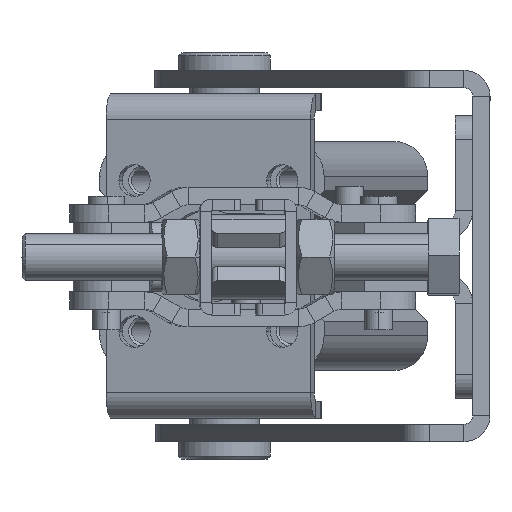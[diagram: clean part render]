
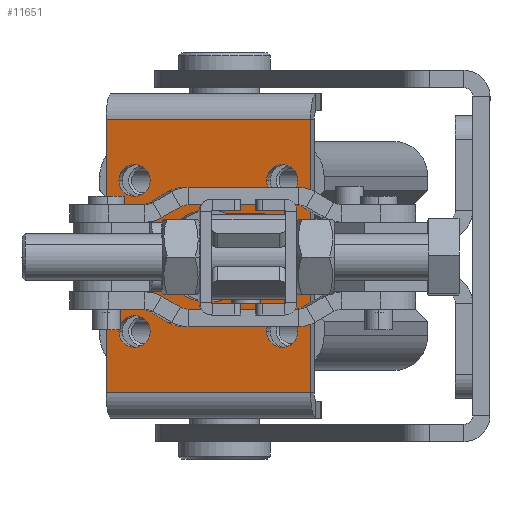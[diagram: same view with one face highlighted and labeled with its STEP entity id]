
A CAD part, left-side view. The second image highlights one B-rep face of the part: STEP entity #11651.
In plain terms, the highlighted planar face has unit normal (-0.98, 0.201, 0) as drawn and (0, -1, 0) by its records, which use the part's own axes.
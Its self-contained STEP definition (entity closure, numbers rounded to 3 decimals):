
#80 = AXIS2_PLACEMENT_3D ( 'NONE', #17554, #7647, #19215 ) ;
#235 = AXIS2_PLACEMENT_3D ( 'NONE', #11893, #1983, #13534 ) ;
#767 = FACE_BOUND ( 'NONE', #18223, .T. ) ;
#1020 = DIRECTION ( 'NONE',  ( 0., 1., 0. ) ) ;
#1090 = ORIENTED_EDGE ( 'NONE', *, *, #7598, .F. ) ;
#1193 = DIRECTION ( 'NONE',  ( 0., 1., 0. ) ) ;
#1299 = FACE_BOUND ( 'NONE', #11923, .T. ) ;
#1346 = VERTEX_POINT ( 'NONE', #3056 ) ;
#1425 = DIRECTION ( 'NONE',  ( 0., 0., 1. ) ) ;
#1983 = DIRECTION ( 'NONE',  ( 0., 1., 0. ) ) ;
#1997 = DIRECTION ( 'NONE',  ( 0., 1., 0. ) ) ;
#2716 = CIRCLE ( 'NONE', #235, 2.75 ) ;
#2783 = AXIS2_PLACEMENT_3D ( 'NONE', #9036, #20605, #10690 ) ;
#3056 = CARTESIAN_POINT ( 'NONE',  ( -23.5, -3., -18. ) ) ;
#3066 = EDGE_LOOP ( 'NONE', ( #6644, #6057 ) ) ;
#3332 = AXIS2_PLACEMENT_3D ( 'NONE', #11091, #1193, #12761 ) ;
#3406 = CARTESIAN_POINT ( 'NONE',  ( 13., -3., -15.75 ) ) ;
#3475 = ORIENTED_EDGE ( 'NONE', *, *, #6961, .T. ) ;
#3598 = DIRECTION ( 'NONE',  ( 0., 1., 0. ) ) ;
#3706 = CARTESIAN_POINT ( 'NONE',  ( 32.168, -3., -18. ) ) ;
#3814 = ORIENTED_EDGE ( 'NONE', *, *, #19813, .T. ) ;
#4022 = AXIS2_PLACEMENT_3D ( 'NONE', #7030, #18619, #8715 ) ;
#4083 = EDGE_LOOP ( 'NONE', ( #12535, #6304 ) ) ;
#4286 = CARTESIAN_POINT ( 'NONE',  ( -13., -3., 10.25 ) ) ;
#4319 = CIRCLE ( 'NONE', #6338, 2.75 ) ;
#4563 = CARTESIAN_POINT ( 'NONE',  ( 23.5, -3., -3.767 ) ) ;
#4839 = DIRECTION ( 'NONE',  ( 0., 1., 0. ) ) ;
#5155 = CARTESIAN_POINT ( 'NONE',  ( 13., -3., 15.75 ) ) ;
#5178 = FACE_BOUND ( 'NONE', #18074, .T. ) ;
#5217 = CARTESIAN_POINT ( 'NONE',  ( 23.5, -3., -18. ) ) ;
#5370 = DIRECTION ( 'NONE',  ( -1., 0., 0. ) ) ;
#5452 = VERTEX_POINT ( 'NONE', #5155 ) ;
#5813 = LINE ( 'NONE', #4563, #13563 ) ;
#6057 = ORIENTED_EDGE ( 'NONE', *, *, #13436, .T. ) ;
#6107 = VERTEX_POINT ( 'NONE', #20229 ) ;
#6304 = ORIENTED_EDGE ( 'NONE', *, *, #17381, .T. ) ;
#6338 = AXIS2_PLACEMENT_3D ( 'NONE', #13489, #3598, #15154 ) ;
#6374 = AXIS2_PLACEMENT_3D ( 'NONE', #14721, #4839, #16395 ) ;
#6644 = ORIENTED_EDGE ( 'NONE', *, *, #8799, .T. ) ;
#6789 = CARTESIAN_POINT ( 'NONE',  ( -13., -3., -15.75 ) ) ;
#6840 = EDGE_LOOP ( 'NONE', ( #15791, #19679, #11571, #1090 ) ) ;
#6961 = EDGE_CURVE ( 'NONE', #6107, #13749, #13867, .T. ) ;
#7030 = CARTESIAN_POINT ( 'NONE',  ( -13., -3., -13. ) ) ;
#7380 = CARTESIAN_POINT ( 'NONE',  ( 39.5, -3., -3.767 ) ) ;
#7508 = VERTEX_POINT ( 'NONE', #5217 ) ;
#7553 = VECTOR ( 'NONE', #13493, 1000. ) ;
#7598 = EDGE_CURVE ( 'NONE', #7508, #1346, #16967, .T. ) ;
#7647 = DIRECTION ( 'NONE',  ( 0., 1., 0. ) ) ;
#8150 = VERTEX_POINT ( 'NONE', #6789 ) ;
#8326 = VERTEX_POINT ( 'NONE', #8954 ) ;
#8580 = CARTESIAN_POINT ( 'NONE',  ( 23.5, -3., 18. ) ) ;
#8622 = VERTEX_POINT ( 'NONE', #9593 ) ;
#8623 = EDGE_CURVE ( 'NONE', #12063, #5452, #12029, .T. ) ;
#8715 = DIRECTION ( 'NONE',  ( 0., 0., 1. ) ) ;
#8799 = EDGE_CURVE ( 'NONE', #18263, #8326, #18611, .T. ) ;
#8954 = CARTESIAN_POINT ( 'NONE',  ( 0., -3., -8. ) ) ;
#9036 = CARTESIAN_POINT ( 'NONE',  ( 0., -3., 0. ) ) ;
#9047 = DIRECTION ( 'NONE',  ( 0., 1., 0. ) ) ;
#9468 = AXIS2_PLACEMENT_3D ( 'NONE', #10926, #1020, #12606 ) ;
#9593 = CARTESIAN_POINT ( 'NONE',  ( -13., -3., 15.75 ) ) ;
#9861 = CARTESIAN_POINT ( 'NONE',  ( 0., -3., 8. ) ) ;
#9972 = CARTESIAN_POINT ( 'NONE',  ( 13., -3., 10.25 ) ) ;
#10170 = CARTESIAN_POINT ( 'NONE',  ( -32.168, -3., 18. ) ) ;
#10208 = EDGE_CURVE ( 'NONE', #11252, #17768, #12478, .T. ) ;
#10611 = VECTOR ( 'NONE', #19727, 1000. ) ;
#10690 = DIRECTION ( 'NONE',  ( 0., 0., 1. ) ) ;
#10926 = CARTESIAN_POINT ( 'NONE',  ( 0., -3., 0. ) ) ;
#10993 = CARTESIAN_POINT ( 'NONE',  ( -23.5, -3., 18. ) ) ;
#11091 = CARTESIAN_POINT ( 'NONE',  ( 13., -3., 13. ) ) ;
#11252 = VERTEX_POINT ( 'NONE', #10993 ) ;
#11336 = DIRECTION ( 'NONE',  ( 0., 1., 0. ) ) ;
#11571 = ORIENTED_EDGE ( 'NONE', *, *, #14375, .T. ) ;
#11651 = ADVANCED_FACE ( 'NONE', ( #18387, #1299, #5178, #767, #17848, #13452 ), #17279, .F. ) ;
#11893 = CARTESIAN_POINT ( 'NONE',  ( -13., -3., 13. ) ) ;
#11899 = CARTESIAN_POINT ( 'NONE',  ( 13., -3., -13. ) ) ;
#11923 = EDGE_LOOP ( 'NONE', ( #12228, #21366 ) ) ;
#12029 = CIRCLE ( 'NONE', #20619, 2.75 ) ;
#12063 = VERTEX_POINT ( 'NONE', #9972 ) ;
#12228 = ORIENTED_EDGE ( 'NONE', *, *, #20331, .T. ) ;
#12478 = LINE ( 'NONE', #10170, #7553 ) ;
#12487 = CIRCLE ( 'NONE', #3332, 2.75 ) ;
#12535 = ORIENTED_EDGE ( 'NONE', *, *, #18834, .T. ) ;
#12585 = VECTOR ( 'NONE', #5370, 1000. ) ;
#12606 = DIRECTION ( 'NONE',  ( 0., 0., 1. ) ) ;
#12761 = DIRECTION ( 'NONE',  ( 0., 0., 1. ) ) ;
#13436 = EDGE_CURVE ( 'NONE', #8326, #18263, #14160, .T. ) ;
#13452 = FACE_BOUND ( 'NONE', #3066, .T. ) ;
#13489 = CARTESIAN_POINT ( 'NONE',  ( 13., -3., -13. ) ) ;
#13493 = DIRECTION ( 'NONE',  ( 1., 0., 0. ) ) ;
#13534 = DIRECTION ( 'NONE',  ( 0., 0., 1. ) ) ;
#13547 = DIRECTION ( 'NONE',  ( 0., 0., 1. ) ) ;
#13563 = VECTOR ( 'NONE', #21141, 1000. ) ;
#13606 = CARTESIAN_POINT ( 'NONE',  ( -13., -3., -10.25 ) ) ;
#13749 = VERTEX_POINT ( 'NONE', #3406 ) ;
#13867 = CIRCLE ( 'NONE', #13955, 2.75 ) ;
#13955 = AXIS2_PLACEMENT_3D ( 'NONE', #11899, #1997, #13547 ) ;
#14160 = CIRCLE ( 'NONE', #9468, 8. ) ;
#14375 = EDGE_CURVE ( 'NONE', #11252, #1346, #15521, .T. ) ;
#14646 = ORIENTED_EDGE ( 'NONE', *, *, #20692, .T. ) ;
#14721 = CARTESIAN_POINT ( 'NONE',  ( -13., -3., -13. ) ) ;
#15154 = DIRECTION ( 'NONE',  ( 0., 0., 1. ) ) ;
#15405 = VERTEX_POINT ( 'NONE', #4286 ) ;
#15521 = LINE ( 'NONE', #18071, #10611 ) ;
#15677 = AXIS2_PLACEMENT_3D ( 'NONE', #7380, #9047, #20612 ) ;
#15680 = VERTEX_POINT ( 'NONE', #13606 ) ;
#15791 = ORIENTED_EDGE ( 'NONE', *, *, #19230, .F. ) ;
#16395 = DIRECTION ( 'NONE',  ( 0., 0., 1. ) ) ;
#16967 = LINE ( 'NONE', #3706, #12585 ) ;
#17279 = PLANE ( 'NONE',  #15677 ) ;
#17381 = EDGE_CURVE ( 'NONE', #15405, #8622, #18316, .T. ) ;
#17554 = CARTESIAN_POINT ( 'NONE',  ( -13., -3., 13. ) ) ;
#17748 = EDGE_CURVE ( 'NONE', #13749, #6107, #4319, .T. ) ;
#17768 = VERTEX_POINT ( 'NONE', #8580 ) ;
#17848 = FACE_OUTER_BOUND ( 'NONE', #6840, .T. ) ;
#18071 = CARTESIAN_POINT ( 'NONE',  ( -23.5, -3., -3.767 ) ) ;
#18074 = EDGE_LOOP ( 'NONE', ( #3475, #20340 ) ) ;
#18223 = EDGE_LOOP ( 'NONE', ( #3814, #14646 ) ) ;
#18263 = VERTEX_POINT ( 'NONE', #9861 ) ;
#18316 = CIRCLE ( 'NONE', #80, 2.75 ) ;
#18387 = FACE_BOUND ( 'NONE', #4083, .T. ) ;
#18434 = CIRCLE ( 'NONE', #4022, 2.75 ) ;
#18611 = CIRCLE ( 'NONE', #2783, 8. ) ;
#18619 = DIRECTION ( 'NONE',  ( 0., 1., 0. ) ) ;
#18834 = EDGE_CURVE ( 'NONE', #8622, #15405, #2716, .T. ) ;
#19215 = DIRECTION ( 'NONE',  ( 0., 0., 1. ) ) ;
#19230 = EDGE_CURVE ( 'NONE', #17768, #7508, #5813, .T. ) ;
#19679 = ORIENTED_EDGE ( 'NONE', *, *, #10208, .F. ) ;
#19727 = DIRECTION ( 'NONE',  ( 0., 0., -1. ) ) ;
#19752 = CIRCLE ( 'NONE', #6374, 2.75 ) ;
#19813 = EDGE_CURVE ( 'NONE', #15680, #8150, #19752, .T. ) ;
#20229 = CARTESIAN_POINT ( 'NONE',  ( 13., -3., -10.25 ) ) ;
#20331 = EDGE_CURVE ( 'NONE', #5452, #12063, #12487, .T. ) ;
#20340 = ORIENTED_EDGE ( 'NONE', *, *, #17748, .T. ) ;
#20605 = DIRECTION ( 'NONE',  ( 0., 1., 0. ) ) ;
#20612 = DIRECTION ( 'NONE',  ( 0., 0., 1. ) ) ;
#20619 = AXIS2_PLACEMENT_3D ( 'NONE', #21242, #11336, #1425 ) ;
#20692 = EDGE_CURVE ( 'NONE', #8150, #15680, #18434, .T. ) ;
#21141 = DIRECTION ( 'NONE',  ( 0., 0., -1. ) ) ;
#21242 = CARTESIAN_POINT ( 'NONE',  ( 13., -3., 13. ) ) ;
#21366 = ORIENTED_EDGE ( 'NONE', *, *, #8623, .T. ) ;
